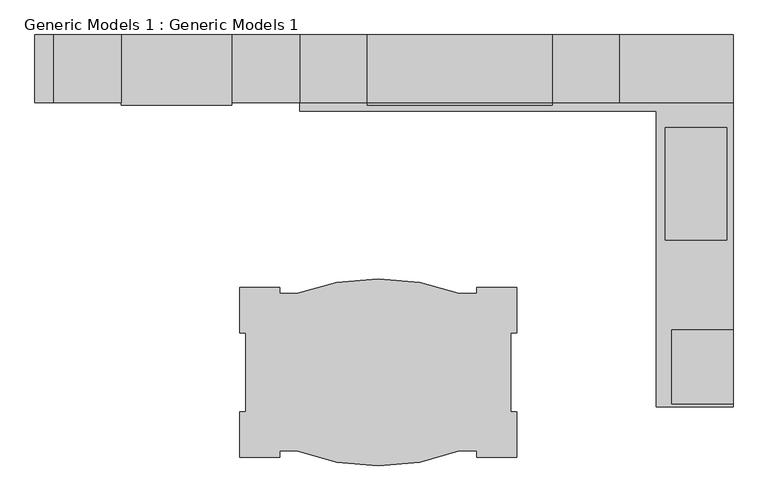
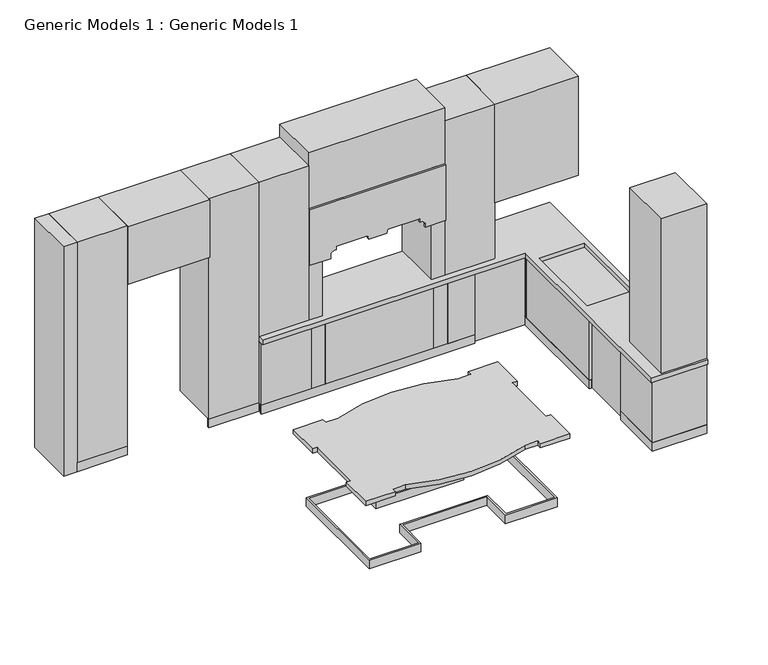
"""IFC4 building model written with IfcOpenShell, lengths in millimetres: proxy geometry, Generic Models 1 : Generic Models 1."""

from ifc_helpers import new_model, si_unit, point, frame, frame_2d, origin, origin_with_axes, place, context, project, spatial, polyline, circle_curve, trimmed, segment, composite_curve, outline, extrude, source, transform, mapped, element, save


def generic_models_1_generic_models_1_8641127e(model_context):
    return source(origin(), model_context, "Body", "SweptSolid", [
        extrude(outline(polyline([(11965.1996652, -3122.5067795), (11965.1996652, -2522.5067795), (11985.1996652, -2522.5067795), (11985.1996652, -3102.5067795), (12565.1996652, -3102.5067795), (12565.1996652, -3122.5067795), (11965.1996652, -3122.5067795)])), origin_with_axes(), (0.0, 0.0, 1.0), 100.0),
        extrude(outline(polyline([(11965.1996652, -1922.5067795), (11965.1996652, -692.5067795), (11985.1996652, -692.5067795), (11985.1996652, -1922.5067795), (11965.1996652, -1922.5067795)])), origin_with_axes(), (0.0, 0.0, 1.0), 100.0),
        extrude(outline(polyline([(11395.1996652, -722.5067795), (9045.1996652, -722.5067795), (9045.1996652, -702.5067795), (11395.1996652, -702.5067795), (11395.1996652, -722.5067795)])), origin_with_axes(), (0.0, 0.0, 1.0), 100.0),
        extrude(outline(polyline([(7595.1996652, -672.5067795), (7045.1996652, -672.5067795), (7045.1996652, -652.5067795), (7595.1996652, -652.5067795), (7595.1996652, -672.5067795)])), origin_with_axes(), (0.0, 0.0, 1.0), 100.0),
        extrude(outline(polyline([(9045.1996652, -652.5067795), (9045.1996652, -672.5067795), (8495.1996652, -672.5067795), (8495.1996652, -652.5067795), (9045.1996652, -652.5067795)])), origin_with_axes(), (0.0, 0.0, 1.0), 100.0),
        extrude(outline(polyline([(10148.2065511, -3465.3176802), (10148.2065511, -3115.3176802), (9218.2065511, -3115.3176802), (9218.2065511, -3465.3176802), (8648.2065511, -3465.3176802), (8648.2065511, -2265.3176802), (9218.2065511, -2265.3176802), (9218.2065511, -2615.3176802), (10148.2065511, -2615.3176802), (10148.2065511, -2265.3176802), (10718.2065511, -2265.3176802), (10718.2065511, -3465.3176802), (10148.2065511, -3465.3176802)]), holes=[polyline([(10168.2065511, -3445.3176802), (10698.2065511, -3445.3176802), (10698.2065511, -2285.3176802), (10168.2065511, -2285.3176802), (10168.2065511, -2635.3176802), (9198.2065511, -2635.3176802), (9198.2065511, -2285.3176802), (8668.2065511, -2285.3176802), (8668.2065511, -3445.3176802), (9198.2065511, -3445.3176802), (9198.2065511, -3095.3176802), (10168.2065511, -3095.3176802), (10168.2065511, -3445.3176802)])]), origin_with_axes(), (0.0, 0.0, 1.0), 100.0),
        extrude(outline(polyline([(7045.1996652, -672.5067795), (6895.1996652, -672.5067795), (6895.1996652, -122.5067795), (7045.1996652, -122.5067795), (7045.1996652, -672.5067795)])), origin_with_axes(), (0.0, 0.0, 1.0), 2670.0),
        extrude(outline(polyline([(7595.1996652, -672.5067795), (7045.1996652, -672.5067795), (7045.1996652, -122.5067795), (7595.1996652, -122.5067795), (7595.1996652, -672.5067795)])), frame((0.0, 0.0, 100.0), z_axis=(0.0, 0.0, 1.0), x_axis=(1.0, 0.0, 0.0)), (0.0, 0.0, 1.0), 2570.0),
        extrude(outline(polyline([(8495.1996652, -692.5067795), (7595.1996652, -692.5067795), (7595.1996652, -122.5067795), (8495.1996652, -122.5067795), (8495.1996652, -692.5067795)])), frame((0.0, 0.0, 2000.0), z_axis=(0.0, 0.0, 1.0), x_axis=(1.0, 0.0, 0.0)), (0.0, 0.0, 1.0), 670.0),
        extrude(outline(polyline([(9045.1996652, -672.5067795), (8495.1996652, -672.5067795), (8495.1996652, -122.5067795), (9045.1996652, -122.5067795), (9045.1996652, -672.5067795)])), frame((0.0, 0.0, 100.0), z_axis=(0.0, 0.0, 1.0), x_axis=(1.0, 0.0, 0.0)), (0.0, 0.0, 1.0), 2570.0),
        extrude(outline(polyline([(9595.1996652, -672.5067795), (9045.1996652, -672.5067795), (9045.1996652, -122.5067795), (9595.1996652, -122.5067795), (9595.1996652, -672.5067795)])), frame((0.0, 0.0, 870.0), z_axis=(0.0, 0.0, 1.0), x_axis=(1.0, 0.0, 0.0)), (0.0, 0.0, 1.0), 1800.0),
        extrude(outline(polyline([(9595.1996652, -722.5067795), (9045.1996652, -722.5067795), (9045.1996652, -122.5067795), (9595.1996652, -122.5067795), (9595.1996652, -722.5067795)])), frame((0.0, 0.0, 100.0), z_axis=(0.0, 0.0, 1.0), x_axis=(1.0, 0.0, 0.0)), (0.0, 0.0, 1.0), 720.0),
        extrude(outline(composite_curve([segment(polyline([(2170.0, 11095.1996652), (2170.0, 9595.1996652), (1520.0, 9595.1996652), (1520.0, 9825.1996652), (1560.0, 9825.1996652)]), True, "CONTINUOUS"), segment(trimmed(circle_curve(frame_2d((1560.0, 9865.1996652)), 40.0), [point((1560.0, 9825.1996652))], [point((1600.0, 9865.1996652))], True, "CARTESIAN"), True, "CONTINUOUS"), segment(polyline([(1600.0, 9865.1996652), (1600.0, 9885.1996652), (1640.0, 9885.1996652), (1640.0, 10234.4816975), (1600.0, 10245.1996652), (1600.0, 10345.1996652), (1600.0, 10445.1996652), (1640.0, 10455.9176329), (1640.0, 10805.1996652), (1600.0, 10805.1996652), (1600.0, 10825.1996652)]), True, "CONTINUOUS"), segment(trimmed(circle_curve(frame_2d((1560.0, 10825.1996652)), 40.0), [point((1600.0, 10825.1996652))], [point((1560.0, 10865.1996652))], True, "CARTESIAN"), True, "CONTINUOUS"), segment(polyline([(1560.0, 10865.1996652), (1520.0, 10865.1996652), (1520.0, 11095.1996652), (2170.0, 11095.1996652)]), True, "CONTINUOUS")], self_intersect=False)), frame((0.0, -692.5067795, 0.0), z_axis=(0.0, 1.0, 0.0), x_axis=(0.0, 0.0, 1.0)), (0.0, 0.0, 1.0), 20.0),
        extrude(outline(polyline([(11095.1996652, -672.5067795), (9595.1996652, -672.5067795), (9595.1996652, -122.5067795), (11095.1996652, -122.5067795), (11095.1996652, -672.5067795)])), frame((0.0, 0.0, 2170.0), z_axis=(0.0, 0.0, 1.0), x_axis=(1.0, 0.0, 0.0)), (0.0, 0.0, 1.0), 650.0),
        extrude(outline(polyline([(9745.1996652, -672.5067795), (9595.1996652, -672.5067795), (9595.1996652, -122.5067795), (9745.1996652, -122.5067795), (9745.1996652, -672.5067795)])), frame((0.0, 0.0, 870.0), z_axis=(0.0, 0.0, 1.0), x_axis=(1.0, 0.0, 0.0)), (0.0, 0.0, 1.0), 1300.0),
        extrude(outline(polyline([(11095.1996652, -672.5067795), (10945.1996652, -672.5067795), (10945.1996652, -122.5067795), (11095.1996652, -122.5067795), (11095.1996652, -672.5067795)])), frame((0.0, 0.0, 870.0), z_axis=(0.0, 0.0, 1.0), x_axis=(1.0, 0.0, 0.0)), (0.0, 0.0, 1.0), 1300.0),
        extrude(outline(polyline([(9745.1996652, -722.5067795), (9595.1996652, -722.5067795), (9595.1996652, -122.5067795), (9745.1996652, -122.5067795), (9745.1996652, -722.5067795)])), frame((0.0, 0.0, 100.0), z_axis=(0.0, 0.0, 1.0), x_axis=(1.0, 0.0, 0.0)), (0.0, 0.0, 1.0), 720.0),
        extrude(outline(polyline([(11095.1996652, -722.5067795), (10945.1996652, -722.5067795), (10945.1996652, -122.5067795), (11095.1996652, -122.5067795), (11095.1996652, -722.5067795)])), frame((0.0, 0.0, 100.0), z_axis=(0.0, 0.0, 1.0), x_axis=(1.0, 0.0, 0.0)), (0.0, 0.0, 1.0), 720.0),
        extrude(outline(polyline([(10945.1996652, -722.5067795), (9745.1996652, -722.5067795), (9745.1996652, -122.5067795), (10945.1996652, -122.5067795), (10945.1996652, -722.5067795)])), frame((0.0, 0.0, 100.0), z_axis=(0.0, 0.0, 1.0), x_axis=(1.0, 0.0, 0.0)), (0.0, 0.0, 1.0), 720.0),
        extrude(outline(polyline([(12565.1996652, -672.5067795), (11645.1996652, -672.5067795), (11645.1996652, -122.5067795), (12565.1996652, -122.5067795), (12565.1996652, -672.5067795)])), frame((0.0, 0.0, 1520.0), z_axis=(0.0, 0.0, 1.0), x_axis=(1.0, 0.0, 0.0)), (0.0, 0.0, 1.0), 1150.0),
        extrude(outline(polyline([(11645.1996652, -672.5067795), (11095.1996652, -672.5067795), (11095.1996652, -122.5067795), (11645.1996652, -122.5067795), (11645.1996652, -672.5067795)])), frame((0.0, 0.0, 870.0), z_axis=(0.0, 0.0, 1.0), x_axis=(1.0, 0.0, 0.0)), (0.0, 0.0, 1.0), 1800.0),
        extrude(outline(polyline([(11395.1996652, -722.5067795), (11095.1996652, -722.5067795), (11095.1996652, -122.5067795), (11395.1996652, -122.5067795), (11395.1996652, -722.5067795)])), frame((0.0, 0.0, 100.0), z_axis=(0.0, 0.0, 1.0), x_axis=(1.0, 0.0, 0.0)), (0.0, 0.0, 1.0), 720.0),
        extrude(outline(polyline([(11395.1996652, -692.5067795), (11395.1996652, -122.5067795), (11965.1996652, -122.5067795), (11965.1996652, -692.5067795), (11395.1996652, -692.5067795)])), origin_with_axes(), (0.0, 0.0, 1.0), 820.0),
        extrude(outline(polyline([(12065.1996652, -3122.5067795), (12065.1996652, -2522.5067795), (12565.1996652, -2522.5067795), (12565.1996652, -3122.5067795), (12065.1996652, -3122.5067795)])), frame((0.0, 0.0, 870.0), z_axis=(0.0, 0.0, 1.0), x_axis=(1.0, 0.0, 0.0)), (0.0, 0.0, 1.0), 1800.0),
        extrude(outline(polyline([(12565.1996652, -122.5067795), (12565.1996652, -3146.5067795), (11941.1996652, -3146.5067795), (11941.1996652, -742.5067795), (9045.1996652, -742.5067795), (9045.1996652, -122.5067795), (12565.1996652, -122.5067795)]), holes=[polyline([(12015.1094365, -876.1461629), (12015.1094365, -1791.1461629), (12515.1094365, -1791.1461629), (12515.1094365, -876.1461629), (12015.1094365, -876.1461629)])]), frame((0.0, 0.0, 820.0), z_axis=(0.0, 0.0, 1.0), x_axis=(1.0, 0.0, 0.0)), (0.0, 0.0, 1.0), 50.0),
        extrude(outline(composite_curve([segment(polyline([(8608.2065511, -3185.3176802), (8608.2065511, -2545.3176802), (8558.2065511, -2545.3176802), (8558.2065511, -2175.3176802), (8883.2065511, -2175.3176802), (8883.2065511, -2225.3176802), (9023.2065511, -2225.3176802)]), True, "CONTINUOUS"), segment(trimmed(circle_curve(frame_2d((9683.2065511, -3969.2294416)), 1864.6254937), [point((9023.2065511, -2225.3176802))], [point((10343.2065511, -2225.3176802))], False, "CARTESIAN"), True, "CONTINUOUS"), segment(polyline([(10343.2065511, -2225.3176802), (10483.2065511, -2225.3176802), (10483.2065511, -2175.3176802), (10808.2065511, -2175.3176802), (10808.2065511, -2545.3176802), (10758.2065511, -2545.3176802), (10758.2065511, -3185.3176802), (10808.2065511, -3185.3176802), (10808.2065511, -3555.3176802), (10483.2065511, -3555.3176802), (10483.2065511, -3505.3176802), (10343.2065511, -3505.3176802)]), True, "CONTINUOUS"), segment(trimmed(circle_curve(frame_2d((9683.2065511, -1761.4059188)), 1864.6254937), [point((10343.2065511, -3505.3176802))], [point((9023.2065511, -3505.3176802))], False, "CARTESIAN"), True, "CONTINUOUS"), segment(polyline([(9023.2065511, -3505.3176802), (8883.2065511, -3505.3176802), (8883.2065511, -3555.3176802), (8558.2065511, -3555.3176802), (8558.2065511, -3185.3176802), (8608.2065511, -3185.3176802)]), True, "CONTINUOUS")], self_intersect=False)), frame((0.0, 0.0, 820.0), z_axis=(0.0, 0.0, 1.0), x_axis=(1.0, 0.0, 0.0)), (0.0, 0.0, 1.0), 50.0),
        extrude(outline(polyline([(11965.1996652, -722.5067795), (11965.1996652, -122.5067795), (12565.1996652, -122.5067795), (12565.1996652, -722.5067795), (11965.1996652, -722.5067795)])), frame((0.0, 0.0, 100.0), z_axis=(0.0, 0.0, 1.0), x_axis=(1.0, 0.0, 0.0)), (0.0, 0.0, 1.0), 720.0),
        extrude(outline(polyline([(11965.1996652, -1922.5067795), (11965.1996652, -722.5067795), (12565.1996652, -722.5067795), (12565.1996652, -1922.5067795), (11965.1996652, -1922.5067795)])), frame((0.0, 0.0, 100.0), z_axis=(0.0, 0.0, 1.0), x_axis=(1.0, 0.0, 0.0)), (0.0, 0.0, 1.0), 720.0),
        extrude(outline(polyline([(11965.1996652, -3122.5067795), (11965.1996652, -2522.5067795), (12565.1996652, -2522.5067795), (12565.1996652, -3122.5067795), (11965.1996652, -3122.5067795)])), frame((0.0, 0.0, 100.0), z_axis=(0.0, 0.0, 1.0), x_axis=(1.0, 0.0, 0.0)), (0.0, 0.0, 1.0), 720.0),
        extrude(outline(polyline([(11995.1996652, -2522.5067795), (11995.1996652, -1922.5067795), (12565.1996652, -1922.5067795), (12565.1996652, -2522.5067795), (11995.1996652, -2522.5067795)])), origin_with_axes(), (0.0, 0.0, 1.0), 820.0),
    ])


if __name__ == "__main__":
    model = new_model("IFC4")
    model_context = context("Model", 3, world=origin())
    ifc_project = project(units=[si_unit("LENGTHUNIT", "METRE", prefix="MILLI")], contexts=[model_context])
    site = spatial("IfcSite", under=ifc_project)
    building = spatial("IfcBuilding", under=site)
    placement = place(None, origin())
    generic_models_1_generic_models_1_shape = generic_models_1_generic_models_1_8641127e(model_context)
    element("IfcBuildingElementProxy", 1, Name="Generic Models 1 : Generic Models 1", ObjectType="Generic Models 1 : Generic Models 1", at=placement, inside=building, context=model_context, shape_type="MappedRepresentation", body=[
        mapped(generic_models_1_generic_models_1_shape, transform((0.0, 0.0, 0.0), x_axis=(1.0, 0.0, 0.0), y_axis=(0.0, 1.0, 0.0), z_axis=(0.0, 0.0, 1.0))),
    ])
    save(model, "model.ifc")
